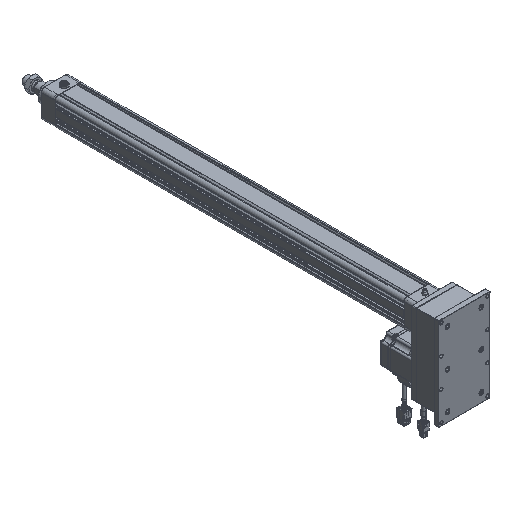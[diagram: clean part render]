
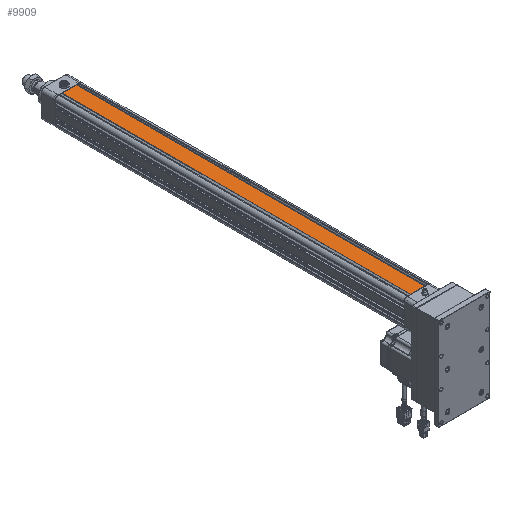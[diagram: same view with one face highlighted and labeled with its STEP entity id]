
A CAD part, isometric view. The second image highlights one B-rep face of the part: STEP entity #9909.
In plain terms, the highlighted planar face has unit normal (0, 0, 1).
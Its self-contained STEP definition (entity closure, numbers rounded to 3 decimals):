
#4873=DIRECTION('',(1.,0.,0.));
#4874=VECTOR('',#4873,26.613);
#4875=CARTESIAN_POINT('',(-13.307,320.7,25.5));
#4876=LINE('',#4875,#4874);
#4877=DIRECTION('',(0.,1.,0.));
#4878=VECTOR('',#4877,641.4);
#4879=CARTESIAN_POINT('',(13.307,-320.7,25.5));
#4880=LINE('',#4879,#4878);
#4881=DIRECTION('',(-1.,0.,0.));
#4882=VECTOR('',#4881,26.613);
#4883=CARTESIAN_POINT('',(13.307,-320.7,25.5));
#4884=LINE('',#4883,#4882);
#4885=DIRECTION('',(0.,-1.,0.));
#4886=VECTOR('',#4885,641.4);
#4887=CARTESIAN_POINT('',(-13.307,320.7,25.5));
#4888=LINE('',#4887,#4886);
#7471=CARTESIAN_POINT('',(13.307,320.7,25.5));
#7472=VERTEX_POINT('',#7471);
#7477=CARTESIAN_POINT('',(-13.307,320.7,25.5));
#7478=VERTEX_POINT('',#7477);
#7791=CARTESIAN_POINT('',(-13.307,-320.7,25.5));
#7792=VERTEX_POINT('',#7791);
#7797=CARTESIAN_POINT('',(13.307,-320.7,25.5));
#7798=VERTEX_POINT('',#7797);
#9895=CARTESIAN_POINT('',(-25.5,-321.,25.5));
#9896=DIRECTION('',(0.,0.,1.));
#9897=DIRECTION('',(1.,0.,0.));
#9898=AXIS2_PLACEMENT_3D('',#9895,#9896,#9897);
#9899=PLANE('',#9898);
#9901=ORIENTED_EDGE('',*,*,#9900,.T.);
#9903=ORIENTED_EDGE('',*,*,#9902,.F.);
#9905=ORIENTED_EDGE('',*,*,#9904,.T.);
#9906=ORIENTED_EDGE('',*,*,#9870,.F.);
#9907=EDGE_LOOP('',(#9901,#9903,#9905,#9906));
#9908=FACE_OUTER_BOUND('',#9907,.F.);
#9909=ADVANCED_FACE('',(#9908),#9899,.T.);
#9870=EDGE_CURVE('',#7478,#7792,#4888,.T.);
#9900=EDGE_CURVE('',#7478,#7472,#4876,.T.);
#9902=EDGE_CURVE('',#7798,#7472,#4880,.T.);
#9904=EDGE_CURVE('',#7798,#7792,#4884,.T.);
